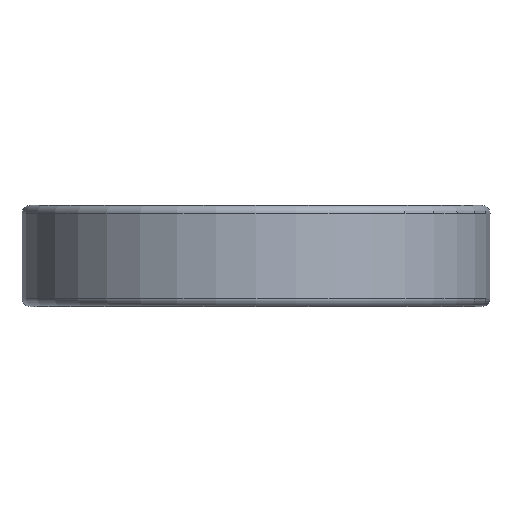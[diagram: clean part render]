
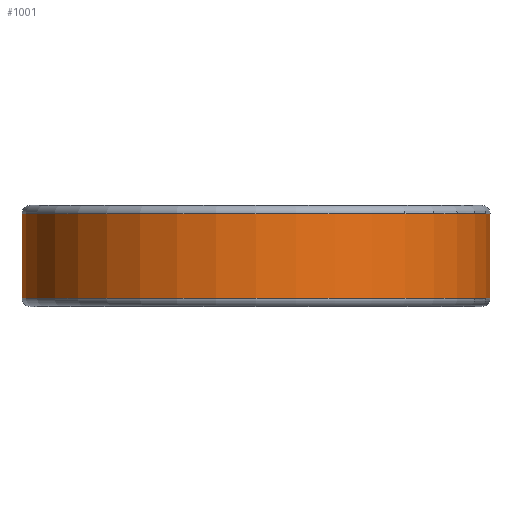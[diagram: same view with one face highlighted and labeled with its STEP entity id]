
A CAD part, left-side view. The second image highlights one B-rep face of the part: STEP entity #1001.
In plain terms, the highlighted cylindrical face has radius 44 mm (diameter 88 mm), a partial arc.
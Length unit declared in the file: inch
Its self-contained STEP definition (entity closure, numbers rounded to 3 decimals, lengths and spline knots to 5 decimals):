
#59=DIRECTION('',(0.,0.,-1.));
#60=VECTOR('',#59,0.15463);
#61=CARTESIAN_POINT('',(1.70095,0.328,0.45133));
#62=LINE('',#61,#60);
#109=DIRECTION('',(0.,0.,1.));
#110=VECTOR('',#109,0.06266);
#111=CARTESIAN_POINT('',(1.70095,0.328,0.23405));
#112=LINE('',#111,#110);
#113=CARTESIAN_POINT('',(1.70095,0.328,0.51398));
#114=CARTESIAN_POINT('',(1.68913,0.3893,0.53459));
#115=CARTESIAN_POINT('',(1.66012,0.50413,0.57271));
#116=CARTESIAN_POINT('',(1.60664,0.65348,0.61525));
#117=CARTESIAN_POINT('',(1.54705,0.78327,0.64305));
#118=CARTESIAN_POINT('',(1.4848,0.895,0.65622));
#119=CARTESIAN_POINT('',(1.42274,0.99014,0.6554));
#120=CARTESIAN_POINT('',(1.36361,1.06965,0.64156));
#121=CARTESIAN_POINT('',(1.30999,1.13431,0.61616));
#122=CARTESIAN_POINT('',(1.26399,1.18504,0.58119));
#123=CARTESIAN_POINT('',(1.22747,1.22261,0.5395));
#124=CARTESIAN_POINT('',(1.20098,1.2485,0.49413));
#125=CARTESIAN_POINT('',(1.18383,1.26469,0.44679));
#126=CARTESIAN_POINT('',(1.17541,1.27249,0.39844));
#127=CARTESIAN_POINT('',(1.17539,1.27251,0.3498));
#128=CARTESIAN_POINT('',(1.18378,1.26474,0.30144));
#129=CARTESIAN_POINT('',(1.20088,1.24859,0.25411));
#130=CARTESIAN_POINT('',(1.22734,1.22273,0.2087));
#131=CARTESIAN_POINT('',(1.26383,1.18522,0.167));
#132=CARTESIAN_POINT('',(1.30971,1.13463,0.13205));
#133=CARTESIAN_POINT('',(1.36326,1.0701,0.10661));
#134=CARTESIAN_POINT('',(1.42227,0.9908,0.09269));
#135=CARTESIAN_POINT('',(1.48429,0.89584,0.09177));
#136=CARTESIAN_POINT('',(1.54662,0.78413,0.10483));
#137=CARTESIAN_POINT('',(1.60634,0.65422,0.13259));
#138=CARTESIAN_POINT('',(1.65999,0.5046,0.17517));
#139=CARTESIAN_POINT('',(1.68909,0.38947,0.21339));
#140=CARTESIAN_POINT('',(1.70095,0.328,0.23405));
#142=DIRECTION('',(0.,0.,1.));
#143=VECTOR('',#142,0.06266);
#144=CARTESIAN_POINT('',(1.70095,0.328,0.45133));
#145=LINE('',#144,#143);
#146=CARTESIAN_POINT('',(0.,0.,0.05984));
#147=DIRECTION('',(0.,0.,-1.));
#148=DIRECTION('',(0.999,-0.036,0.));
#149=AXIS2_PLACEMENT_3D('',#146,#147,#148);
#151=CARTESIAN_POINT('',(1.457,-0.93699,0.23802));
#152=CARTESIAN_POINT('',(1.44738,-0.95196,
0.23802));
#153=CARTESIAN_POINT('',(1.42864,-0.98009,
0.24004));
#154=CARTESIAN_POINT('',(1.4023,-1.01734,0.2485));
#155=CARTESIAN_POINT('',(1.37857,-1.04919,0.26182));
#156=CARTESIAN_POINT('',(1.35823,-1.07532,0.27927));
#157=CARTESIAN_POINT('',(1.3419,-1.09556,0.3));
#158=CARTESIAN_POINT('',(1.33005,-1.10989,0.32306));
#159=CARTESIAN_POINT('',(1.32273,-1.11857,0.34773));
#160=CARTESIAN_POINT('',(1.32019,-1.12157,0.37365));
#161=CARTESIAN_POINT('',(1.32258,-1.11875,0.39955));
#162=CARTESIAN_POINT('',(1.32972,-1.11028,0.42407));
#163=CARTESIAN_POINT('',(1.34131,-1.09628,0.44712));
#164=CARTESIAN_POINT('',(1.35754,-1.07618,0.46805));
#165=CARTESIAN_POINT('',(1.37799,-1.04995,0.48583));
#166=CARTESIAN_POINT('',(1.40195,-1.01783,0.4994));
#167=CARTESIAN_POINT('',(1.42853,-0.98025,
0.50799));
#168=CARTESIAN_POINT('',(1.44735,-0.952,
0.51002));
#169=CARTESIAN_POINT('',(1.457,-0.93699,0.51002));
#281=CARTESIAN_POINT('',(1.73116,-0.0625,
0.05984));
#290=DIRECTION('',(0.,0.,1.));
#291=VECTOR('',#290,0.62836);
#292=CARTESIAN_POINT('',(1.73116,-0.0625,
0.05984));
#293=LINE('',#292,#291);
#301=CARTESIAN_POINT('',(1.73116,-0.0625,
0.68819));
#357=CARTESIAN_POINT('',(1.73116,0.0625,0.68819));
#366=DIRECTION('',(0.,0.,-1.));
#367=VECTOR('',#366,0.62836);
#368=CARTESIAN_POINT('',(1.73116,0.0625,0.68819));
#369=LINE('',#368,#367);
#377=CARTESIAN_POINT('',(1.73116,0.0625,0.05984));
#492=CARTESIAN_POINT('',(0.,0.,0.68819));
#493=DIRECTION('',(0.,0.,1.));
#494=DIRECTION('',(0.999,0.036,0.));
#495=AXIS2_PLACEMENT_3D('',#492,#493,#494);
#505=CARTESIAN_POINT('',(1.457,-0.93699,0.51002));
#506=CARTESIAN_POINT('',(1.46608,-0.92288,
0.51002));
#507=CARTESIAN_POINT('',(1.48307,-0.89555,
0.50822));
#508=CARTESIAN_POINT('',(1.50508,-0.85797,
0.50185));
#509=CARTESIAN_POINT('',(1.52404,-0.82375,
0.49291));
#510=CARTESIAN_POINT('',(1.54025,-0.79297,
0.48211));
#511=CARTESIAN_POINT('',(1.55402,-0.76556,
0.46988));
#512=CARTESIAN_POINT('',(1.56566,-0.74144,
0.45644));
#513=CARTESIAN_POINT('',(1.57532,-0.72062,
0.44183));
#514=CARTESIAN_POINT('',(1.58311,-0.70331,
0.42598));
#515=CARTESIAN_POINT('',(1.58888,-0.69016,
0.40882));
#516=CARTESIAN_POINT('',(1.5923,-0.68227,
0.39123));
#517=CARTESIAN_POINT('',(1.59339,-0.67968,
0.37341));
#518=CARTESIAN_POINT('',(1.59215,-0.68262,
0.35569));
#519=CARTESIAN_POINT('',(1.58862,-0.69074,
0.33827));
#520=CARTESIAN_POINT('',(1.58279,-0.70407,
0.3213));
#521=CARTESIAN_POINT('',(1.57497,-0.72139,
0.3056));
#522=CARTESIAN_POINT('',(1.5653,-0.74218,
0.29114));
#523=CARTESIAN_POINT('',(1.55368,-0.76625,
0.27781));
#524=CARTESIAN_POINT('',(1.53994,-0.79357,
0.26569));
#525=CARTESIAN_POINT('',(1.52377,-0.82425,
0.25497));
#526=CARTESIAN_POINT('',(1.50487,-0.85833,
0.24611));
#527=CARTESIAN_POINT('',(1.48295,-0.89575,
0.2398));
#528=CARTESIAN_POINT('',(1.46604,-0.92294,
0.23802));
#529=CARTESIAN_POINT('',(1.457,-0.93699,0.23802));
#642=CARTESIAN_POINT('',(1.70095,0.328,0.2967));
#643=VERTEX_POINT('',#642);
#644=CARTESIAN_POINT('',(1.70095,0.328,0.45133));
#645=VERTEX_POINT('',#644);
#713=VERTEX_POINT('',#281);
#714=VERTEX_POINT('',#301);
#729=VERTEX_POINT('',#357);
#731=VERTEX_POINT('',#377);
#749=CARTESIAN_POINT('',(1.70095,0.328,0.23405));
#750=VERTEX_POINT('',#749);
#751=CARTESIAN_POINT('',(1.70095,0.328,0.51398));
#752=VERTEX_POINT('',#751);
#753=VERTEX_POINT('',#151);
#754=VERTEX_POINT('',#169);
#973=CARTESIAN_POINT('',(0.,0.,0.74803));
#974=DIRECTION('',(0.,0.,-1.));
#975=DIRECTION('',(-1.,0.,0.));
#976=AXIS2_PLACEMENT_3D('',#973,#974,#975);
#977=CYLINDRICAL_SURFACE('',#976,1.73228);
#979=ORIENTED_EDGE('',*,*,#978,.T.);
#981=ORIENTED_EDGE('',*,*,#980,.F.);
#983=ORIENTED_EDGE('',*,*,#982,.T.);
#985=ORIENTED_EDGE('',*,*,#984,.F.);
#986=EDGE_LOOP('',(#979,#981,#983,#985));
#987=FACE_OUTER_BOUND('',#986,.F.);
#988=ORIENTED_EDGE('',*,*,#792,.F.);
#990=ORIENTED_EDGE('',*,*,#989,.F.);
#991=ORIENTED_EDGE('',*,*,#788,.F.);
#992=ORIENTED_EDGE('',*,*,#834,.T.);
#993=EDGE_LOOP('',(#988,#990,#991,#992));
#994=FACE_BOUND('',#993,.F.);
#996=ORIENTED_EDGE('',*,*,#995,.F.);
#998=ORIENTED_EDGE('',*,*,#997,.F.);
#999=EDGE_LOOP('',(#996,#998));
#1000=FACE_BOUND('',#999,.F.);
#141=B_SPLINE_CURVE_WITH_KNOTS('',3,(#113,#114,#115,#116,#117,#118,#119,#120,
#121,#122,#123,#124,#125,#126,#127,#128,#129,#130,#131,#132,#133,#134,#135,#136,
#137,#138,#139,#140),.UNSPECIFIED.,.F.,.F.,(4,1,1,1,1,1,1,1,1,1,1,1,1,1,1,1,1,1,
1,1,1,1,1,1,1,4),(0.,0.04,0.08,0.12,0.16,0.2,0.24,0.28,0.32,
0.36,0.4,0.44,0.48,0.52,0.56,0.6,0.64,0.68,0.72,0.76,
0.8,0.84,0.88,0.92,0.96,1.),.UNSPECIFIED.);
#150=CIRCLE('',#149,1.73228);
#170=B_SPLINE_CURVE_WITH_KNOTS('',3,(#151,#152,#153,#154,#155,#156,#157,#158,
#159,#160,#161,#162,#163,#164,#165,#166,#167,#168,#169),.UNSPECIFIED.,.F.,.F.,
(4,1,1,1,1,1,1,1,1,1,1,1,1,1,1,1,4),(0.,0.0625,0.125,0.1875,0.25,
0.3125,0.375,0.4375,0.5,0.5625,0.625,0.6875,0.75,0.8125,
0.875,0.9375,1.),.UNSPECIFIED.);
#496=CIRCLE('',#495,1.73228);
#530=B_SPLINE_CURVE_WITH_KNOTS('',3,(#505,#506,#507,#508,#509,#510,#511,#512,
#513,#514,#515,#516,#517,#518,#519,#520,#521,#522,#523,#524,#525,#526,#527,#528,
#529),.UNSPECIFIED.,.F.,.F.,(4,1,1,1,1,1,1,1,1,1,1,1,1,1,1,1,1,1,1,1,1,1,4),(
0.,0.04545,0.09091,0.13636,0.18182,
0.22727,0.27273,0.31818,0.36364,
0.40909,0.45455,0.5,0.54545,0.59091,
0.63636,0.68182,0.72727,0.77273,
0.81818,0.86364,0.90909,0.95455,1.),
.UNSPECIFIED.);
#788=EDGE_CURVE('',#645,#752,#145,.T.);
#792=EDGE_CURVE('',#750,#643,#112,.T.);
#834=EDGE_CURVE('',#645,#643,#62,.T.);
#978=EDGE_CURVE('',#713,#731,#150,.T.);
#980=EDGE_CURVE('',#729,#731,#369,.T.);
#982=EDGE_CURVE('',#729,#714,#496,.T.);
#984=EDGE_CURVE('',#713,#714,#293,.T.);
#989=EDGE_CURVE('',#752,#750,#141,.T.);
#995=EDGE_CURVE('',#753,#754,#170,.T.);
#997=EDGE_CURVE('',#754,#753,#530,.T.);
#1001=ADVANCED_FACE('',(#987,#994,#1000),#977,.T.);
